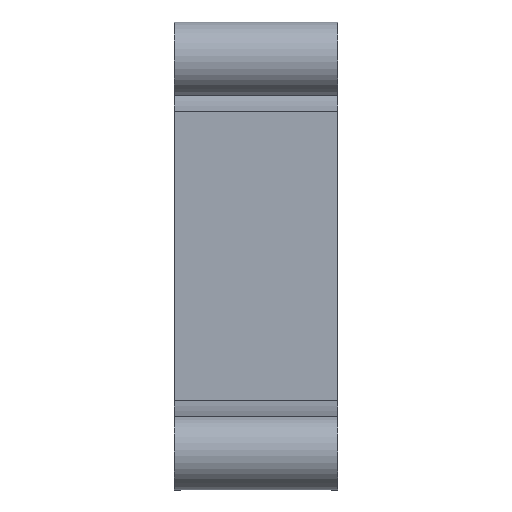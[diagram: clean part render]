
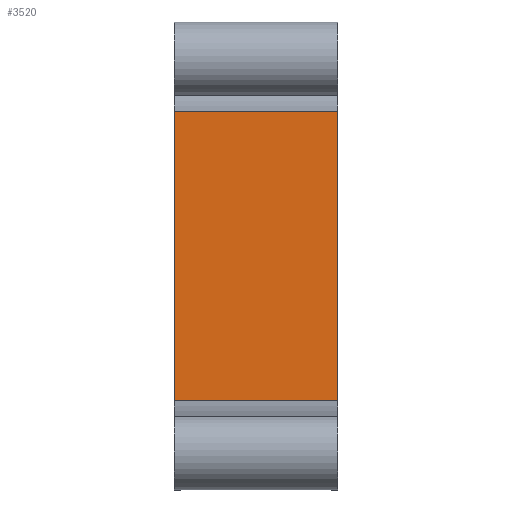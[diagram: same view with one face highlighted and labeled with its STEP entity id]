
A CAD part, left-side view. The second image highlights one B-rep face of the part: STEP entity #3520.
In plain terms, the highlighted planar face has unit normal (-1, 0, 0).
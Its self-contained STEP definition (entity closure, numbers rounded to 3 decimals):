
#733 = PLANE('',#734);
#734 = AXIS2_PLACEMENT_3D('',#735,#736,#737);
#735 = CARTESIAN_POINT('',(3.475,158.98,152.525));
#736 = DIRECTION('',(0.,1.,0.));
#737 = DIRECTION('',(1.,0.,0.));
#1258 = PLANE('',#1259);
#1259 = AXIS2_PLACEMENT_3D('',#1260,#1261,#1262);
#1260 = CARTESIAN_POINT('',(3.475,138.58,152.525));
#1261 = DIRECTION('',(0.,1.,0.));
#1262 = DIRECTION('',(1.,0.,0.));
#2435 = VERTEX_POINT('',#2436);
#2436 = CARTESIAN_POINT('',(3.6,158.98,110.));
#2455 = CYLINDRICAL_SURFACE('',#2456,6.4);
#2456 = AXIS2_PLACEMENT_3D('',#2457,#2458,#2459);
#2457 = CARTESIAN_POINT('',(10.,138.58,110.));
#2458 = DIRECTION('',(0.,1.,0.));
#2459 = DIRECTION('',(-1.,0.,0.));
#2467 = EDGE_CURVE('',#2468,#2435,#2470,.T.);
#2468 = VERTEX_POINT('',#2469);
#2469 = CARTESIAN_POINT('',(3.6,158.98,146.));
#2470 = SURFACE_CURVE('',#2471,(#2475,#2482),.PCURVE_S1.);
#2471 = LINE('',#2472,#2473);
#2472 = CARTESIAN_POINT('',(3.6,158.98,152.4));
#2473 = VECTOR('',#2474,1.);
#2474 = DIRECTION('',(0.,0.,-1.));
#2475 = PCURVE('',#733,#2476);
#2476 = DEFINITIONAL_REPRESENTATION('',(#2477),#2481);
#2477 = LINE('',#2478,#2479);
#2478 = CARTESIAN_POINT('',(0.125,0.125));
#2479 = VECTOR('',#2480,1.);
#2480 = DIRECTION('',(0.,1.));
#2481 = ( GEOMETRIC_REPRESENTATION_CONTEXT(2) 
PARAMETRIC_REPRESENTATION_CONTEXT() REPRESENTATION_CONTEXT('2D SPACE',''
  ) );
#2482 = PCURVE('',#2483,#2488);
#2483 = PLANE('',#2484);
#2484 = AXIS2_PLACEMENT_3D('',#2485,#2486,#2487);
#2485 = CARTESIAN_POINT('',(3.6,138.58,152.4));
#2486 = DIRECTION('',(1.,0.,0.));
#2487 = DIRECTION('',(0.,1.,0.));
#2488 = DEFINITIONAL_REPRESENTATION('',(#2489),#2493);
#2489 = LINE('',#2490,#2491);
#2490 = CARTESIAN_POINT('',(20.4,0.));
#2491 = VECTOR('',#2492,1.);
#2492 = DIRECTION('',(0.,-1.));
#2493 = ( GEOMETRIC_REPRESENTATION_CONTEXT(2) 
PARAMETRIC_REPRESENTATION_CONTEXT() REPRESENTATION_CONTEXT('2D SPACE',''
  ) );
#2510 = CYLINDRICAL_SURFACE('',#2511,6.4);
#2511 = AXIS2_PLACEMENT_3D('',#2512,#2513,#2514);
#2512 = CARTESIAN_POINT('',(10.,138.58,146.));
#2513 = DIRECTION('',(0.,1.,0.));
#2514 = DIRECTION('',(-1.,0.,0.));
#2741 = EDGE_CURVE('',#2742,#2744,#2746,.T.);
#2742 = VERTEX_POINT('',#2743);
#2743 = CARTESIAN_POINT('',(3.6,138.58,146.));
#2744 = VERTEX_POINT('',#2745);
#2745 = CARTESIAN_POINT('',(3.6,138.58,110.));
#2746 = SURFACE_CURVE('',#2747,(#2751,#2758),.PCURVE_S1.);
#2747 = LINE('',#2748,#2749);
#2748 = CARTESIAN_POINT('',(3.6,138.58,152.4));
#2749 = VECTOR('',#2750,1.);
#2750 = DIRECTION('',(0.,0.,-1.));
#2751 = PCURVE('',#1258,#2752);
#2752 = DEFINITIONAL_REPRESENTATION('',(#2753),#2757);
#2753 = LINE('',#2754,#2755);
#2754 = CARTESIAN_POINT('',(0.125,0.125));
#2755 = VECTOR('',#2756,1.);
#2756 = DIRECTION('',(0.,1.));
#2757 = ( GEOMETRIC_REPRESENTATION_CONTEXT(2) 
PARAMETRIC_REPRESENTATION_CONTEXT() REPRESENTATION_CONTEXT('2D SPACE',''
  ) );
#2758 = PCURVE('',#2483,#2759);
#2759 = DEFINITIONAL_REPRESENTATION('',(#2760),#2764);
#2760 = LINE('',#2761,#2762);
#2761 = CARTESIAN_POINT('',(0.,0.));
#2762 = VECTOR('',#2763,1.);
#2763 = DIRECTION('',(0.,-1.));
#2764 = ( GEOMETRIC_REPRESENTATION_CONTEXT(2) 
PARAMETRIC_REPRESENTATION_CONTEXT() REPRESENTATION_CONTEXT('2D SPACE',''
  ) );
#3470 = EDGE_CURVE('',#2742,#2468,#3471,.T.);
#3471 = SURFACE_CURVE('',#3472,(#3476,#3483),.PCURVE_S1.);
#3472 = LINE('',#3473,#3474);
#3473 = CARTESIAN_POINT('',(3.6,138.58,146.));
#3474 = VECTOR('',#3475,1.);
#3475 = DIRECTION('',(0.,1.,0.));
#3476 = PCURVE('',#2510,#3477);
#3477 = DEFINITIONAL_REPRESENTATION('',(#3478),#3482);
#3478 = LINE('',#3479,#3480);
#3479 = CARTESIAN_POINT('',(0.,0.));
#3480 = VECTOR('',#3481,1.);
#3481 = DIRECTION('',(0.,1.));
#3482 = ( GEOMETRIC_REPRESENTATION_CONTEXT(2) 
PARAMETRIC_REPRESENTATION_CONTEXT() REPRESENTATION_CONTEXT('2D SPACE',''
  ) );
#3483 = PCURVE('',#2483,#3484);
#3484 = DEFINITIONAL_REPRESENTATION('',(#3485),#3489);
#3485 = LINE('',#3486,#3487);
#3486 = CARTESIAN_POINT('',(0.,-6.4));
#3487 = VECTOR('',#3488,1.);
#3488 = DIRECTION('',(1.,0.));
#3489 = ( GEOMETRIC_REPRESENTATION_CONTEXT(2) 
PARAMETRIC_REPRESENTATION_CONTEXT() REPRESENTATION_CONTEXT('2D SPACE',''
  ) );
#3520 = ADVANCED_FACE('',(#3521),#2483,.F.);
#3521 = FACE_BOUND('',#3522,.F.);
#3522 = EDGE_LOOP('',(#3523,#3524,#3525,#3526));
#3523 = ORIENTED_EDGE('',*,*,#2467,.F.);
#3524 = ORIENTED_EDGE('',*,*,#3470,.F.);
#3525 = ORIENTED_EDGE('',*,*,#2741,.T.);
#3526 = ORIENTED_EDGE('',*,*,#3527,.T.);
#3527 = EDGE_CURVE('',#2744,#2435,#3528,.T.);
#3528 = SURFACE_CURVE('',#3529,(#3533,#3540),.PCURVE_S1.);
#3529 = LINE('',#3530,#3531);
#3530 = CARTESIAN_POINT('',(3.6,138.58,110.));
#3531 = VECTOR('',#3532,1.);
#3532 = DIRECTION('',(0.,1.,0.));
#3533 = PCURVE('',#2483,#3534);
#3534 = DEFINITIONAL_REPRESENTATION('',(#3535),#3539);
#3535 = LINE('',#3536,#3537);
#3536 = CARTESIAN_POINT('',(0.,-42.4));
#3537 = VECTOR('',#3538,1.);
#3538 = DIRECTION('',(1.,0.));
#3539 = ( GEOMETRIC_REPRESENTATION_CONTEXT(2) 
PARAMETRIC_REPRESENTATION_CONTEXT() REPRESENTATION_CONTEXT('2D SPACE',''
  ) );
#3540 = PCURVE('',#2455,#3541);
#3541 = DEFINITIONAL_REPRESENTATION('',(#3542),#3546);
#3542 = LINE('',#3543,#3544);
#3543 = CARTESIAN_POINT('',(-0.,0.));
#3544 = VECTOR('',#3545,1.);
#3545 = DIRECTION('',(-0.,1.));
#3546 = ( GEOMETRIC_REPRESENTATION_CONTEXT(2) 
PARAMETRIC_REPRESENTATION_CONTEXT() REPRESENTATION_CONTEXT('2D SPACE',''
  ) );
